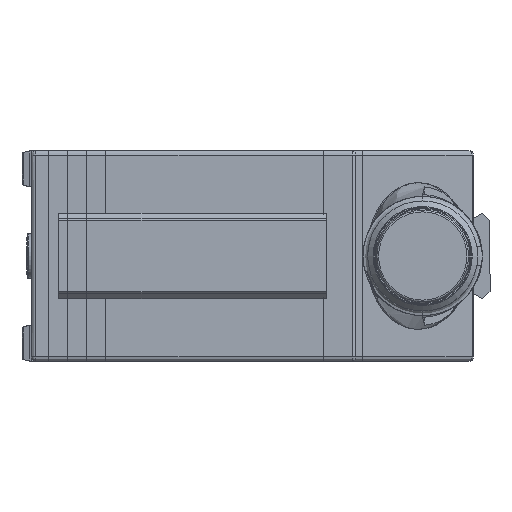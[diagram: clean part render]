
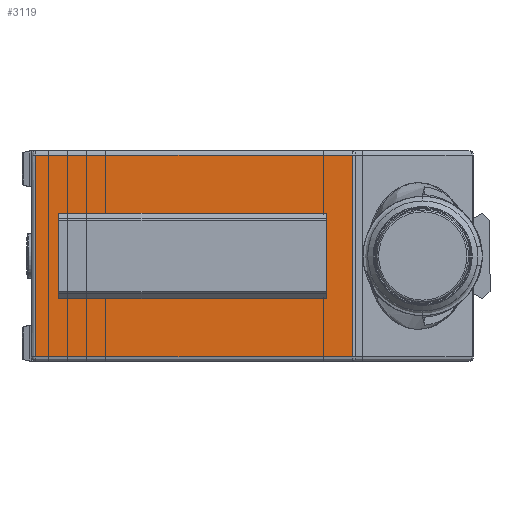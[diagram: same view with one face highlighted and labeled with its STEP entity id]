
A CAD part, left-side view. The second image highlights one B-rep face of the part: STEP entity #3119.
In plain terms, the highlighted planar face has unit normal (-1, 0, 0).
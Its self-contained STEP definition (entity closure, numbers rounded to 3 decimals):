
#144=PLANE('',#3410);
#185=FACE_BOUND('',#539,.T.);
#349=FACE_OUTER_BOUND('',#538,.T.);
#538=EDGE_LOOP('',(#2400,#2401,#2402,#2403));
#539=EDGE_LOOP('',(#2404,#2405,#2406,#2407));
#729=LINE('',#4971,#974);
#731=LINE('',#4975,#976);
#733=LINE('',#4979,#978);
#735=LINE('',#4982,#980);
#736=LINE('',#4988,#981);
#739=LINE('',#5002,#984);
#792=LINE('',#5131,#1037);
#793=LINE('',#5132,#1038);
#974=VECTOR('',#3923,8.2);
#976=VECTOR('',#3927,29.2);
#978=VECTOR('',#3931,8.2);
#980=VECTOR('',#3935,29.2);
#981=VECTOR('',#3940,22.);
#984=VECTOR('',#3953,22.);
#1037=VECTOR('',#4086,34.493);
#1038=VECTOR('',#4087,34.493);
#1357=VERTEX_POINT('',#4968);
#1358=VERTEX_POINT('',#4970);
#1359=VERTEX_POINT('',#4974);
#1360=VERTEX_POINT('',#4978);
#1361=VERTEX_POINT('',#4984);
#1363=VERTEX_POINT('',#4987);
#1367=VERTEX_POINT('',#4996);
#1369=VERTEX_POINT('',#5000);
#1683=EDGE_CURVE('',#1357,#1358,#729,.T.);
#1685=EDGE_CURVE('',#1359,#1358,#731,.T.);
#1687=EDGE_CURVE('',#1360,#1359,#733,.T.);
#1689=EDGE_CURVE('',#1357,#1360,#735,.T.);
#1691=EDGE_CURVE('',#1361,#1363,#736,.T.);
#1698=EDGE_CURVE('',#1369,#1367,#739,.T.);
#1763=EDGE_CURVE('',#1367,#1361,#792,.T.);
#1764=EDGE_CURVE('',#1363,#1369,#793,.T.);
#2400=ORIENTED_EDGE('',*,*,#1691,.F.);
#2401=ORIENTED_EDGE('',*,*,#1763,.F.);
#2402=ORIENTED_EDGE('',*,*,#1698,.F.);
#2403=ORIENTED_EDGE('',*,*,#1764,.F.);
#2404=ORIENTED_EDGE('',*,*,#1689,.T.);
#2405=ORIENTED_EDGE('',*,*,#1687,.T.);
#2406=ORIENTED_EDGE('',*,*,#1685,.T.);
#2407=ORIENTED_EDGE('',*,*,#1683,.F.);
#3119=ADVANCED_FACE('',(#349,#185),#144,.T.);
#3410=AXIS2_PLACEMENT_3D('',#5130,#4084,#4085);
#3923=DIRECTION('',(0.,0.,-1.));
#3927=DIRECTION('',(0.,1.,0.));
#3931=DIRECTION('',(0.,0.,-1.));
#3935=DIRECTION('',(0.,-1.,0.));
#3940=DIRECTION('',(0.,0.,1.));
#3953=DIRECTION('',(0.,0.,-1.));
#4084=DIRECTION('center_axis',(-1.,0.,0.));
#4085=DIRECTION('ref_axis',(0.,0.,
1.));
#4086=DIRECTION('',(0.,1.,0.));
#4087=DIRECTION('',(0.,-1.,0.));
#4968=CARTESIAN_POINT('',(-42.3,45.2,4.1));
#4970=CARTESIAN_POINT('',(-42.3,45.2,-4.1));
#4971=CARTESIAN_POINT('',(-42.3,45.2,4.1));
#4974=CARTESIAN_POINT('',(-42.3,16.,-4.1));
#4975=CARTESIAN_POINT('',(-42.3,16.,-4.1));
#4978=CARTESIAN_POINT('',(-42.3,16.,4.1));
#4979=CARTESIAN_POINT('',(-42.3,16.,4.1));
#4982=CARTESIAN_POINT('',(-42.3,45.2,4.1));
#4984=CARTESIAN_POINT('',(-42.3,47.7,-11.));
#4987=CARTESIAN_POINT('',(-42.3,47.7,11.));
#4988=CARTESIAN_POINT('',(-42.3,47.7,-11.));
#4996=CARTESIAN_POINT('',(-42.3,13.207,-11.));
#5000=CARTESIAN_POINT('',(-42.3,13.207,11.));
#5002=CARTESIAN_POINT('',(-42.3,13.207,11.));
#5130=CARTESIAN_POINT('Origin',(-42.3,48.2,11.5));
#5131=CARTESIAN_POINT('',(-42.3,13.207,-11.));
#5132=CARTESIAN_POINT('',(-42.3,47.7,11.));
